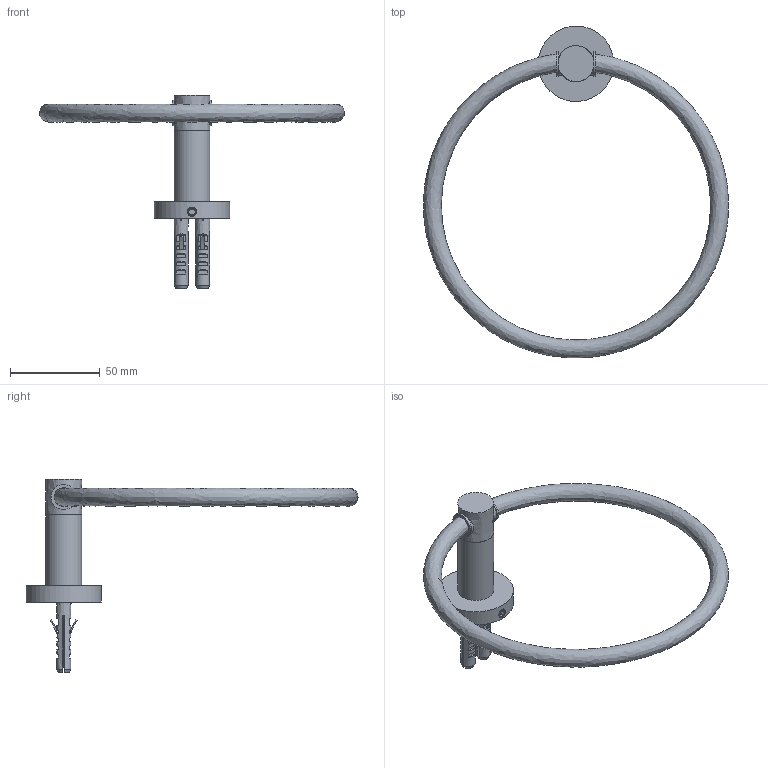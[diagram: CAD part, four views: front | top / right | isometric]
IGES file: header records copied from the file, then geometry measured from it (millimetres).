
Global section: file name: 1534b3ac-5cba-47e6-bc51-c86c3444c045.zip; native system: unknown; preprocessor: unknown; author: unknown; organization: unknown; date: 20200108.121942; units: millimetre
Bounding box: 169.99 x 185 x 108 mm (x, y, z)
Volume: 24098.8 mm3; surface area: 53434.5 mm2
Topology: 14 solids, 14 shells, 453 faces, 1178 edges, 779 vertices
Faces by surface type: bspline 453
